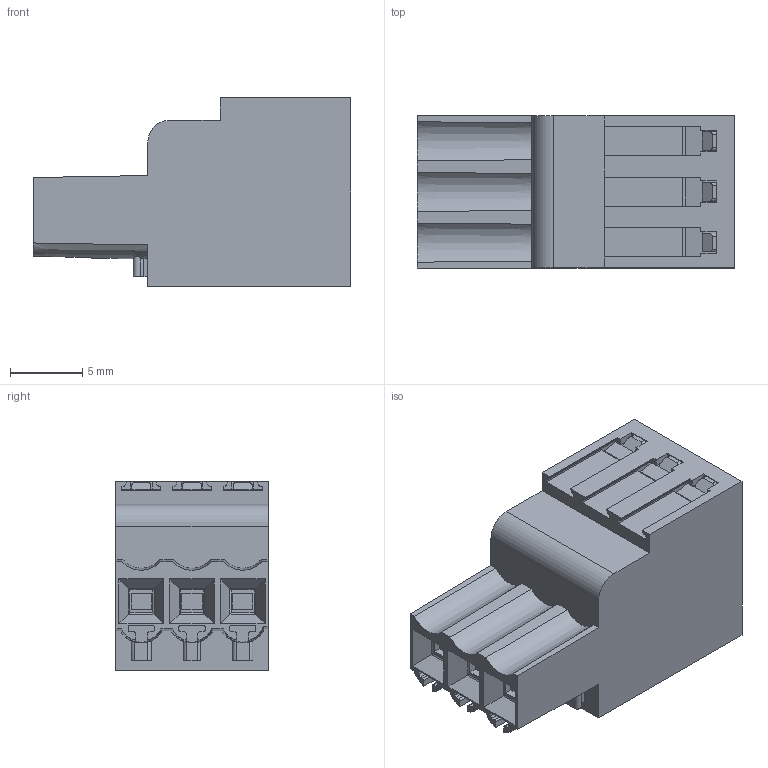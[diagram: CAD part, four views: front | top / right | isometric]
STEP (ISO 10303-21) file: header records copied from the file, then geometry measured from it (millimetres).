
FILE_DESCRIPTION((''),'2;1');
FILE_NAME('3PIN_SW0001','2019-06-03T',('zhenbing.lai'),(''),'CREO PARAMETRIC BY PTC INC, 2016260','CREO PARAMETRIC BY PTC INC, 2016260','');
FILE_SCHEMA(('CONFIG_CONTROL_DESIGN'));
Length unit declared in the file: millimetre
Products named in the file (1): 3PIN_SW0001
Bounding box: 21.9 x 10.5 x 13 mm (x, y, z)
Volume: 2026.3 mm3; surface area: 1803.9 mm2
Topology: 1 solids, 7 shells, 422 faces, 1236 edges, 813 vertices
Faces by surface type: plane 339, cylinder 77, cone 6
Entity records: 14080 total; most frequent: CARTESIAN_POINT 2795, ORIENTED_EDGE 2472, DIRECTION 2151, EDGE_CURVE 1236, VECTOR 1027, LINE 1027, VERTEX_POINT 813, AXIS2_PLACEMENT_3D 562
